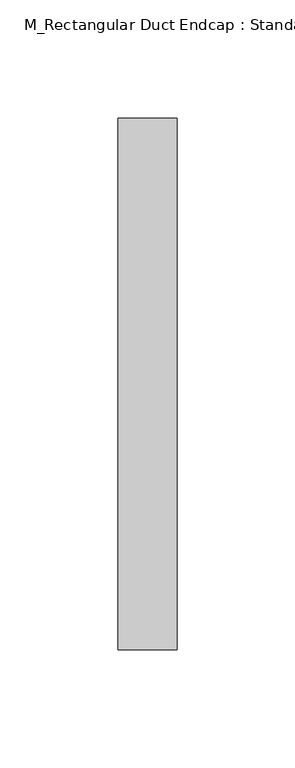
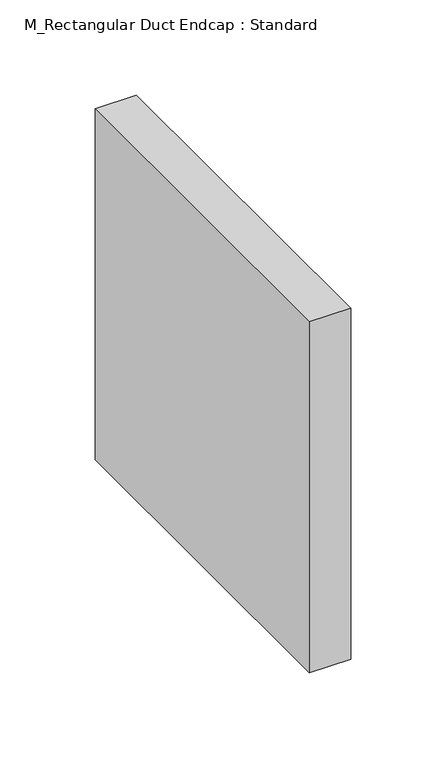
"""IFC4 building model written with IfcOpenShell, lengths in millimetres: duct fitting geometry, M_Rectangular Duct Endcap : Standard."""

from ifc_helpers import new_model, si_unit, frame, origin, place, context, project, spatial, polyline, outline, extrude, source, transform, mapped, element, save


def m_rectangular_duct_endcap_standard_359dc76e(model_context):
    return source(origin(), model_context, "Body", "SweptSolid", [
        extrude(outline(polyline([(0.0, -112.5), (0.0, 112.5), (25.0, 112.5), (25.0, -112.5), (0.0, -112.5)])), frame((0.0, 0.0, -112.5), z_axis=(0.0, 0.0, 1.0), x_axis=(1.0, 0.0, 0.0)), (0.0, 0.0, 1.0), 225.0),
        extrude(outline(polyline([(0.0, -112.5), (0.0, 112.5), (25.0, 112.5), (25.0, -112.5), (0.0, -112.5)])), frame((0.0, 0.0, -112.5), z_axis=(0.0, 0.0, 1.0), x_axis=(1.0, 0.0, 0.0)), (0.0, 0.0, 1.0), 225.0),
        extrude(outline(polyline([(0.0, -112.5), (0.0, 112.5), (25.0, 112.5), (25.0, -112.5), (0.0, -112.5)])), frame((0.0, 0.0, -112.5), z_axis=(0.0, 0.0, 1.0), x_axis=(1.0, 0.0, 0.0)), (0.0, 0.0, 1.0), 225.0),
    ])


if __name__ == "__main__":
    model = new_model("IFC4")
    model_context = context("Model", 3, world=origin())
    ifc_project = project(units=[si_unit("LENGTHUNIT", "METRE", prefix="MILLI")], contexts=[model_context])
    site = spatial("IfcSite", under=ifc_project)
    building = spatial("IfcBuilding", under=site)
    placement = place(None, origin())
    m_rectangular_duct_endcap_standard_shape = m_rectangular_duct_endcap_standard_359dc76e(model_context)
    element("IfcDuctFitting", 1, ObjectType="M_Rectangular Duct Endcap : Standard", at=placement, inside=building, context=model_context, shape_type="MappedRepresentation", body=[
        mapped(m_rectangular_duct_endcap_standard_shape, transform((0.0, 0.0, 0.0), x_axis=(1.0, 0.0, 0.0), y_axis=(0.0, 1.0, 0.0), z_axis=(0.0, 0.0, 1.0))),
    ])
    save(model, "model.ifc")
